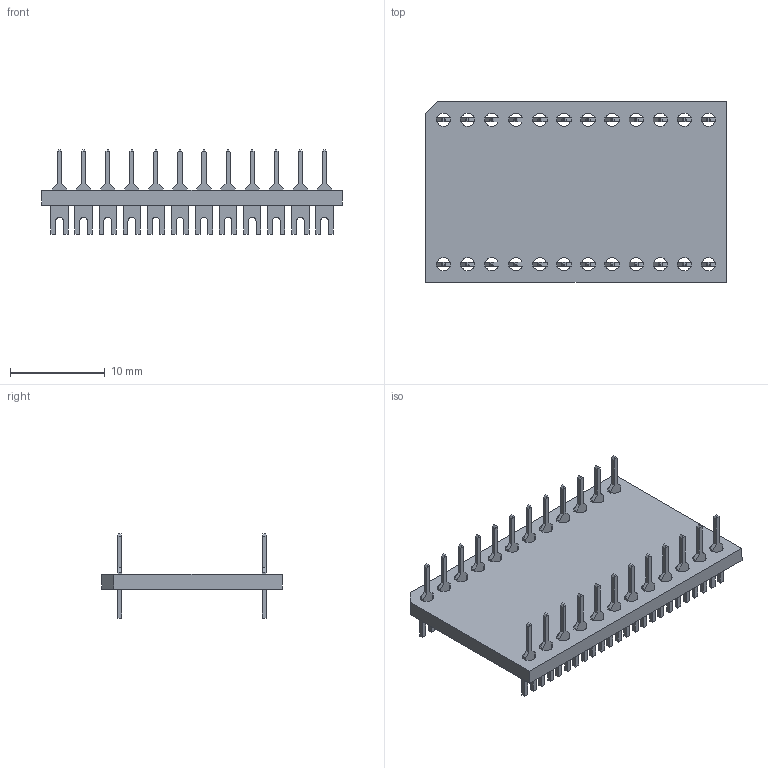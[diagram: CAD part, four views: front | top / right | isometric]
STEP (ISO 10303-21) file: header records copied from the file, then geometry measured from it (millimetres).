
FILE_DESCRIPTION(/* description */ (''),/* implementation_level */ '2;1');
FILE_NAME(/* name */ '\\Snap1\dwgs\Customer 3D Models\702\702-3733 Customer model.stp',/* time_stamp */ '2017-01-04T16:05:48+00:00',/* author */ ('paulk'),/* organization */ (''),/* preprocessor_version */ 'ST-DEVELOPER v15.2',/* originating_system */ 'Autodesk Inventor 2014',/* authorisation */ '');
FILE_SCHEMA (('CONFIG_CONTROL_DESIGN'));
Length unit declared in the file: millimetre
Products named in the file (1): 702-3733 Customer model
Bounding box: 31.75 x 19.05 x 8.89 mm (x, y, z)
Volume: 973.1 mm3; surface area: 2026.3 mm2
Topology: 1 solids, 1 shells, 583 faces, 1887 edges, 1258 vertices
Faces by surface type: plane 487, cylinder 96
Entity records: 21310 total; most frequent: ORIENTED_EDGE 3774, CARTESIAN_POINT 3729, DIRECTION 3247, EDGE_CURVE 1887, LINE 1695, VECTOR 1695, VERTEX_POINT 1258, AXIS2_PLACEMENT_3D 776
